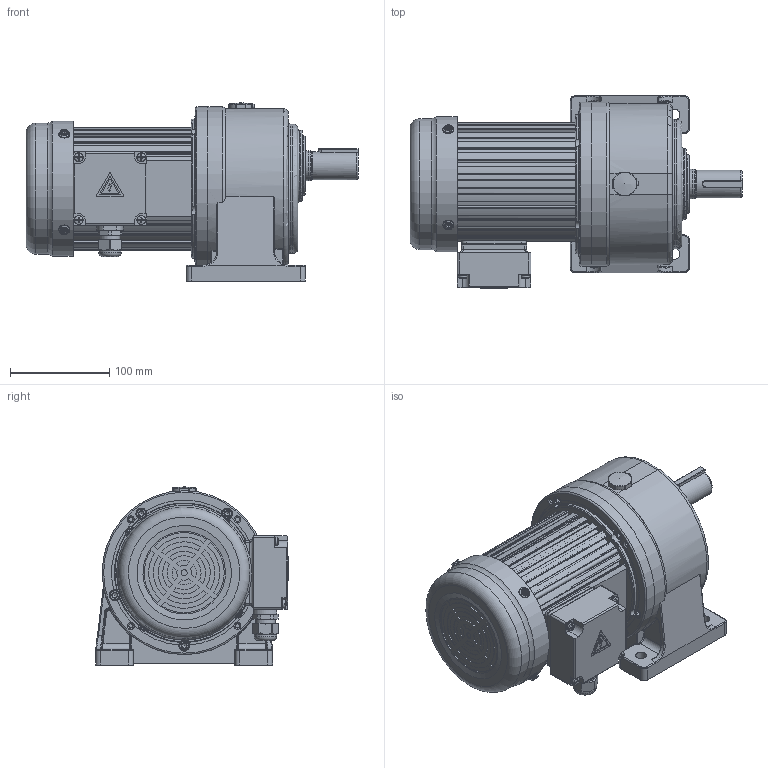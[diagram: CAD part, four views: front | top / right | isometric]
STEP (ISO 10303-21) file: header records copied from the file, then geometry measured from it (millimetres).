
FILE_DESCRIPTION(/* description */ (''),/* implementation_level */ '2;1');
FILE_NAME(/* name */ 'PST00001129_A0-小型交流减速电机-334_178_179.3-Φ28_68_K7-CH28-200-50S2-G1-LD_T1.stp',/* time_stamp */ '2025-04-23T08:15:22+08:00',/* author */ (''),/* organization */ (''),/* preprocessor_version */ 'ST-DEVELOPER v18.102',/* originating_system */ 'SIEMENS PLM Software NX 2027',/* authorisation */ '');
FILE_SCHEMA (('AP203_CONFIGURATION_CONTROLLED_3D_DESIGN_OF_MECHANICAL_PARTS_AND_ASSEMBLIES_MIM_LF { 1 0 10303 403 2 1 2}'));
Length unit declared in the file: millimetre
Products named in the file (1): A0_objects
Bounding box: 334 x 193.75 x 179.3 mm (x, y, z)
Volume: 4541732.7 mm3; surface area: 410616.2 mm2
Topology: 7 solids, 7 shells, 2192 faces, 5581 edges, 3476 vertices
Faces by surface type: plane 1031, cylinder 573, cone 222, bspline 159, torus 150, sphere 33, revolution 24
Full cylindrical faces by diameter (mm): 1 x1, 1.8 x1, 3 x2, 4 x1, 4.2 x12, 4.336 x2, 4.6 x4, 4.826 x4, 5 x6, 5.795 x5, 6 x1, 6.2 x5, 6.4 x4, 7 x8, 8.5 x4, 9 x4, 10 x5, 11 x13, 13.98 x1, 14.5 x1, 17 x2, 20 x1, 21 x1, 22.5 x1, 27.6 x1, 28 x1, 30 x2, 45 x1, 58 x1, 72 x1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
Entity records: 70406 total; most frequent: CARTESIAN_POINT 19486, ORIENTED_EDGE 10616, DIRECTION 10390, EDGE_CURVE 5308, AXIS2_PLACEMENT_3D 4001, VERTEX_POINT 3402, EDGE_LOOP 2483, LINE 2364
